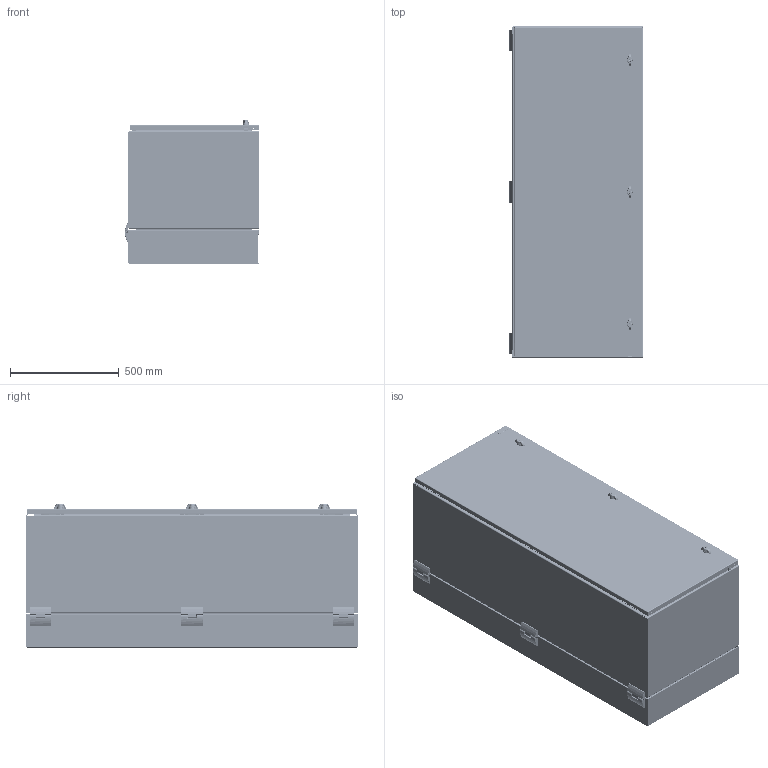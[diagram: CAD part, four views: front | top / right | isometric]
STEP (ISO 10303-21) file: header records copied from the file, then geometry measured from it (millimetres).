
FILE_DESCRIPTION (( 'STEP AP203' ), '1' );
FILE_NAME ('pths602424g4.STEP', '2011-11-30T16:29:08', ( 'Hoffman User' ), ( 'Hoffman Enclosures' ), 'SwSTEP 2.0', 'SolidWorks 2010', '' );
FILE_SCHEMA (( 'CONFIG_CONTROL_DESIGN' ));
Products named in the file (45): pths602424g4; 89074876; 89074875; 89060190; 89060191; 89071699_Installed Config; 89074879; 89074878; 89074877; 89066272; 99401225; 89074874_key taped; 89074871_Compressed wdw gasket; 89074873_89074873; 60127101_60127101; 89074872; 60100041_60100041; 87931527_87931527; 87931368_SLEEVE; 89071927_FOR 16GA; 99407418; 87928600; 64138001; 89066980; 89066979_WITH STAKE; 89066976; 89066978; 89066977; 87540581; 87790199; 60127214_601272214; 87790201_87790201; 60127135_Installed postion; 60127199_60127199; 89066975; 89070550; 89070549; 89056327; 89060213; 89060214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
Assembly tree (122 placements, depth 5):
  pths602424g4
    89072127_87931339  x2
    89070551  x6
    89060212  x3
    89066980  x3
      89066976
      89066979_WITH STAKE
      87540581
    60127214_601272214  x3
      60127199_60127199
      60127135_Installed postion
      87790201_87790201
    89071543_89071543  x3
    89060606_89060606  x2
    89074876
      89071699_Installed Config  x6
      89074875
      60100041_60100041
        87931368_SLEEVE
        87931527_87931527
      89060190  x2
      89060191  x2
      89074872
    89066978  x3
      87540581
      89066977
    89066975  x3
    87790199  x3
    89060214  x3
    89074879
      99401225  x28
      89066272  x2
      60100041_60100041  x2
        87931368_SLEEVE
        87931527_87931527
      89074877
      89074878
    89074874_key taped
      89071927_FOR 16GA  x3
      64138001  x2
      87928600
      89074871_Compressed wdw gasket
        89074873_89074873
        60100041_60100041
          87931368_SLEEVE
          87931527_87931527
        89074872
        60127101_60127101  x3
      99407418  x3
    89070550  x3
      89056327
      89070549
    89060213  x3
Bounding box: 616 x 1525 x 659.17 mm (x, y, z)
Volume: 10663133.7 mm3; surface area: 11570361.8 mm2
Topology: 133 solids, 163 shells, 9858 faces, 24416 edges, 14986 vertices
Faces by surface type: plane 4046, cylinder 3263, bspline 1390, cone 625, torus 380, sphere 154
Entity records: 168496 total; most frequent: CARTESIAN_POINT 75164, ORIENTED_EDGE 18716, DIRECTION 16878, EDGE_CURVE 9358, AXIS2_PLACEMENT_3D 5999, VERTEX_POINT 5818, LINE 4880, VECTOR 4880
